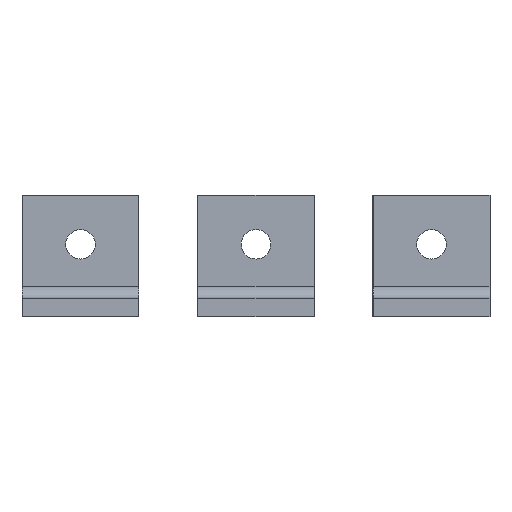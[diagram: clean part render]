
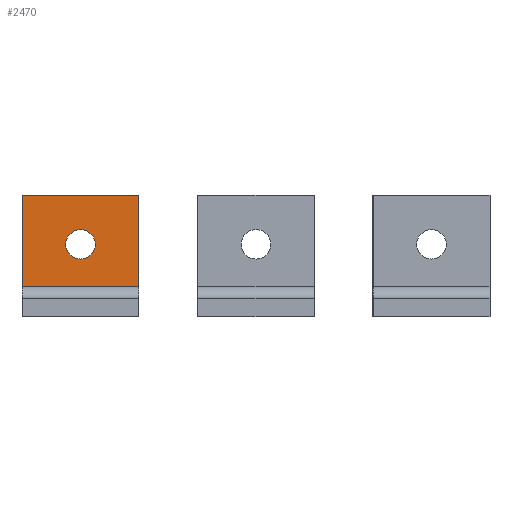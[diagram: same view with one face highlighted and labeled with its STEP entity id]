
A CAD part, front view. The second image highlights one B-rep face of the part: STEP entity #2470.
In plain terms, the highlighted planar face has unit normal (0, -1, 0).
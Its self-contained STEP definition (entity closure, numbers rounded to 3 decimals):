
#30 = EDGE_CURVE ( 'NONE', #2063, #4199, #1825, .T. ) ;
#175 = DIRECTION ( 'NONE',  ( 0., 1., 0. ) ) ;
#313 = CARTESIAN_POINT ( 'NONE',  ( -25., -58.5, 45.8 ) ) ;
#492 = CIRCLE ( 'NONE', #1488, 3.15 ) ;
#540 = CARTESIAN_POINT ( 'NONE',  ( -25., -58.5, 26.3 ) ) ;
#594 = ORIENTED_EDGE ( 'NONE', *, *, #4189, .F. ) ;
#599 = CARTESIAN_POINT ( 'NONE',  ( -37.5, -58.5, 32.15 ) ) ;
#643 = ORIENTED_EDGE ( 'NONE', *, *, #1144, .F. ) ;
#1090 = EDGE_CURVE ( 'NONE', #4506, #4199, #2295, .T. ) ;
#1103 = LINE ( 'NONE', #2724, #2872 ) ;
#1143 = ORIENTED_EDGE ( 'NONE', *, *, #1090, .T. ) ;
#1144 = EDGE_CURVE ( 'NONE', #3196, #3675, #492, .T. ) ;
#1165 = FACE_OUTER_BOUND ( 'NONE', #4029, .T. ) ;
#1361 = VERTEX_POINT ( 'NONE', #2224 ) ;
#1370 = DIRECTION ( 'NONE',  ( 1., 0., 0. ) ) ;
#1450 = ORIENTED_EDGE ( 'NONE', *, *, #1604, .F. ) ;
#1488 = AXIS2_PLACEMENT_3D ( 'NONE', #4262, #2863, #3226 ) ;
#1604 = EDGE_CURVE ( 'NONE', #3675, #3196, #1621, .T. ) ;
#1621 = CIRCLE ( 'NONE', #4344, 3.15 ) ;
#1653 = CARTESIAN_POINT ( 'NONE',  ( -37.5, -58.5, 38.45 ) ) ;
#1769 = DIRECTION ( 'NONE',  ( 0., -1., 0. ) ) ;
#1795 = DIRECTION ( 'NONE',  ( 1., 0., 0. ) ) ;
#1825 = LINE ( 'NONE', #3208, #4399 ) ;
#2030 = AXIS2_PLACEMENT_3D ( 'NONE', #4071, #175, #2623 ) ;
#2063 = VERTEX_POINT ( 'NONE', #3062 ) ;
#2224 = CARTESIAN_POINT ( 'NONE',  ( -50., -58.5, 26.3 ) ) ;
#2264 = PLANE ( 'NONE',  #2030 ) ;
#2295 = LINE ( 'NONE', #3109, #2681 ) ;
#2457 = LINE ( 'NONE', #4588, #4323 ) ;
#2470 = ADVANCED_FACE ( 'NONE', ( #4289, #1165 ), #2264, .F. ) ;
#2497 = CARTESIAN_POINT ( 'NONE',  ( -37.5, -58.5, 35.3 ) ) ;
#2623 = DIRECTION ( 'NONE',  ( 1., 0., 0. ) ) ;
#2681 = VECTOR ( 'NONE', #3767, 1000. ) ;
#2724 = CARTESIAN_POINT ( 'NONE',  ( -50., -58.5, 45.8 ) ) ;
#2863 = DIRECTION ( 'NONE',  ( 0., -1., 0. ) ) ;
#2872 = VECTOR ( 'NONE', #4512, 1000. ) ;
#3062 = CARTESIAN_POINT ( 'NONE',  ( -50., -58.5, 45.8 ) ) ;
#3109 = CARTESIAN_POINT ( 'NONE',  ( -25., -58.5, 45.8 ) ) ;
#3196 = VERTEX_POINT ( 'NONE', #599 ) ;
#3208 = CARTESIAN_POINT ( 'NONE',  ( -50., -58.5, 45.8 ) ) ;
#3226 = DIRECTION ( 'NONE',  ( 1., 0., 0. ) ) ;
#3490 = EDGE_LOOP ( 'NONE', ( #643, #1450 ) ) ;
#3492 = ORIENTED_EDGE ( 'NONE', *, *, #3502, .T. ) ;
#3502 = EDGE_CURVE ( 'NONE', #1361, #4506, #2457, .T. ) ;
#3525 = DIRECTION ( 'NONE',  ( 1., 0., 0. ) ) ;
#3675 = VERTEX_POINT ( 'NONE', #1653 ) ;
#3767 = DIRECTION ( 'NONE',  ( 0., 0., 1. ) ) ;
#4029 = EDGE_LOOP ( 'NONE', ( #1143, #4259, #594, #3492 ) ) ;
#4071 = CARTESIAN_POINT ( 'NONE',  ( -50., -58.5, 45.8 ) ) ;
#4189 = EDGE_CURVE ( 'NONE', #1361, #2063, #1103, .T. ) ;
#4199 = VERTEX_POINT ( 'NONE', #313 ) ;
#4259 = ORIENTED_EDGE ( 'NONE', *, *, #30, .F. ) ;
#4262 = CARTESIAN_POINT ( 'NONE',  ( -37.5, -58.5, 35.3 ) ) ;
#4289 = FACE_BOUND ( 'NONE', #3490, .T. ) ;
#4323 = VECTOR ( 'NONE', #1370, 1000. ) ;
#4344 = AXIS2_PLACEMENT_3D ( 'NONE', #2497, #1769, #1795 ) ;
#4399 = VECTOR ( 'NONE', #3525, 1000. ) ;
#4506 = VERTEX_POINT ( 'NONE', #540 ) ;
#4512 = DIRECTION ( 'NONE',  ( 0., 0., 1. ) ) ;
#4588 = CARTESIAN_POINT ( 'NONE',  ( -50., -58.5, 26.3 ) ) ;
